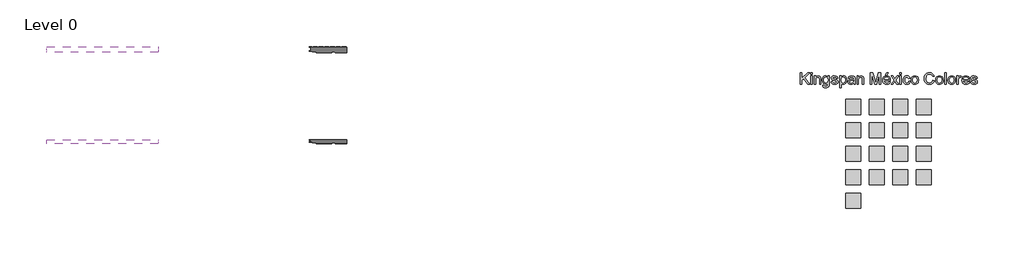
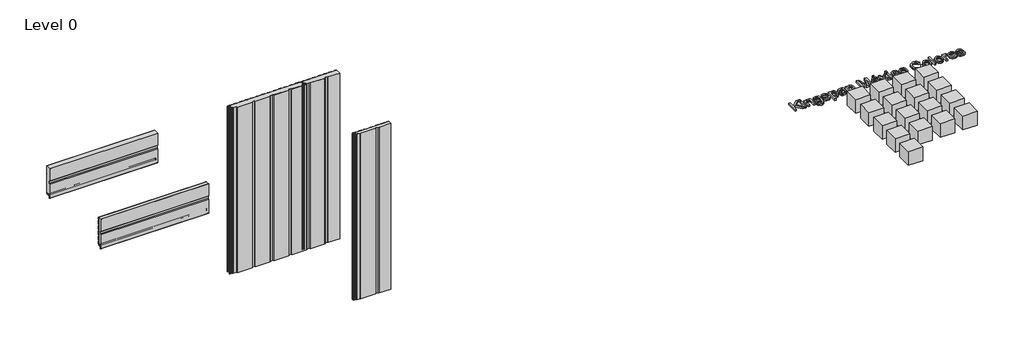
# One storey, incomplete: 18 proxies, 5 plates.
"""IFC4 building model written with IfcOpenShell, lengths in millimetres."""

from ifc_helpers import new_model, si_unit, origin, place, context, project, spatial, transform, mapped, element, save
from components import generic_models_9fd19f98, ks_colour_sample_ks_colour_sample_0243efec, hz_050mm_ca93fbe0, hz_075mm_f9465556, vt_050mm_93b16b37, vt_075mm_114747fd, vt_075mm_04f93a46, vt_075mm_c0fd3bfb

model = new_model("IFC4")

# Units and contexts
model_context = context("Model", 3, world=origin())
ifc_project = project(units=[si_unit("LENGTHUNIT", "METRE", prefix="MILLI")], contexts=[model_context])

# Site, building, storey
site = spatial("IfcSite", under=ifc_project)
building = spatial("IfcBuilding", under=site)
storey = spatial("IfcBuildingStorey", under=building, Name="Level 0", Elevation=0.0)

# Proxies
placement = place(None, origin())
generic_models_shape = generic_models_9fd19f98(model_context)
element("IfcBuildingElementProxy", 1, Name="KIP-MX_ColourRange_Spanish : KIP-MX_ColourRange_Spanish", ObjectType="KIP-MX_ColourRange_Spanish : KIP-MX_ColourRange_Spanish", at=placement, inside=storey, context=model_context, shape_type="MappedRepresentation", body=[
    mapped(generic_models_shape, transform((1966.0629502, 11802.7493823, 0.0), x_axis=(1.0, 0.0, 0.0), y_axis=(0.0, 1.0, 0.0), z_axis=(0.0, 0.0, 1.0))),
])
ks_colour_sample_ks_colour_sample_shape = ks_colour_sample_ks_colour_sample_0243efec(model_context)
element("IfcBuildingElementProxy", 2, Name="KS_Colour Sample : KS_Colour Sample", ObjectType="KS_Colour Sample : KS_Colour Sample", at=placement, inside=storey, context=model_context, shape_type="MappedRepresentation", body=[
    mapped(ks_colour_sample_ks_colour_sample_shape, transform((1501.0629502, 13781.2299273, 0.0), x_axis=(1.0, 0.0, 0.0), y_axis=(0.0, 1.0, 0.0), z_axis=(0.0, 0.0, 1.0))),
])
element("IfcBuildingElementProxy", 3, Name="KS_Colour Sample : KS_Colour Sample", ObjectType="KS_Colour Sample : KS_Colour Sample", at=placement, inside=storey, context=model_context, shape_type="MappedRepresentation", body=[
    mapped(ks_colour_sample_ks_colour_sample_shape, transform((1811.0629502, 13781.2299273, 0.0), x_axis=(1.0, 0.0, 0.0), y_axis=(0.0, 1.0, 0.0), z_axis=(0.0, 0.0, 1.0))),
])
element("IfcBuildingElementProxy", 4, Name="KS_Colour Sample : KS_Colour Sample", ObjectType="KS_Colour Sample : KS_Colour Sample", at=placement, inside=storey, context=model_context, shape_type="MappedRepresentation", body=[
    mapped(ks_colour_sample_ks_colour_sample_shape, transform((2121.0629502, 13781.2299273, 0.0), x_axis=(1.0, 0.0, 0.0), y_axis=(0.0, 1.0, 0.0), z_axis=(0.0, 0.0, 1.0))),
])
element("IfcBuildingElementProxy", 5, Name="KS_Colour Sample : KS_Colour Sample", ObjectType="KS_Colour Sample : KS_Colour Sample", at=placement, inside=storey, context=model_context, shape_type="MappedRepresentation", body=[
    mapped(ks_colour_sample_ks_colour_sample_shape, transform((2431.0629502, 13781.2299273, 0.0), x_axis=(1.0, 0.0, 0.0), y_axis=(0.0, 1.0, 0.0), z_axis=(0.0, 0.0, 1.0))),
])
element("IfcBuildingElementProxy", 6, Name="KS_Colour Sample : KS_Colour Sample", ObjectType="KS_Colour Sample : KS_Colour Sample", at=placement, inside=storey, context=model_context, shape_type="MappedRepresentation", body=[
    mapped(ks_colour_sample_ks_colour_sample_shape, transform((1501.0629502, 13471.2299273, 0.0), x_axis=(1.0, 0.0, 0.0), y_axis=(0.0, 1.0, 0.0), z_axis=(0.0, 0.0, 1.0))),
])
element("IfcBuildingElementProxy", 7, Name="KS_Colour Sample : KS_Colour Sample", ObjectType="KS_Colour Sample : KS_Colour Sample", at=placement, inside=storey, context=model_context, shape_type="MappedRepresentation", body=[
    mapped(ks_colour_sample_ks_colour_sample_shape, transform((1811.0629502, 13471.2299273, 0.0), x_axis=(1.0, 0.0, 0.0), y_axis=(0.0, 1.0, 0.0), z_axis=(0.0, 0.0, 1.0))),
])
element("IfcBuildingElementProxy", 8, Name="KS_Colour Sample : KS_Colour Sample", ObjectType="KS_Colour Sample : KS_Colour Sample", at=placement, inside=storey, context=model_context, shape_type="MappedRepresentation", body=[
    mapped(ks_colour_sample_ks_colour_sample_shape, transform((2121.0629502, 13471.2299273, 0.0), x_axis=(1.0, 0.0, 0.0), y_axis=(0.0, 1.0, 0.0), z_axis=(0.0, 0.0, 1.0))),
])
element("IfcBuildingElementProxy", 9, Name="KS_Colour Sample : KS_Colour Sample", ObjectType="KS_Colour Sample : KS_Colour Sample", at=placement, inside=storey, context=model_context, shape_type="MappedRepresentation", body=[
    mapped(ks_colour_sample_ks_colour_sample_shape, transform((2431.0629502, 13471.2299273, 0.0), x_axis=(1.0, 0.0, 0.0), y_axis=(0.0, 1.0, 0.0), z_axis=(0.0, 0.0, 1.0))),
])
element("IfcBuildingElementProxy", 10, Name="KS_Colour Sample : KS_Colour Sample", ObjectType="KS_Colour Sample : KS_Colour Sample", at=placement, inside=storey, context=model_context, shape_type="MappedRepresentation", body=[
    mapped(ks_colour_sample_ks_colour_sample_shape, transform((1501.0629502, 13161.2299273, 0.0), x_axis=(1.0, 0.0, 0.0), y_axis=(0.0, 1.0, 0.0), z_axis=(0.0, 0.0, 1.0))),
])
element("IfcBuildingElementProxy", 11, Name="KS_Colour Sample : KS_Colour Sample", ObjectType="KS_Colour Sample : KS_Colour Sample", at=placement, inside=storey, context=model_context, shape_type="MappedRepresentation", body=[
    mapped(ks_colour_sample_ks_colour_sample_shape, transform((1811.0629502, 13161.2299273, 0.0), x_axis=(1.0, 0.0, 0.0), y_axis=(0.0, 1.0, 0.0), z_axis=(0.0, 0.0, 1.0))),
])
element("IfcBuildingElementProxy", 12, Name="KS_Colour Sample : KS_Colour Sample", ObjectType="KS_Colour Sample : KS_Colour Sample", at=placement, inside=storey, context=model_context, shape_type="MappedRepresentation", body=[
    mapped(ks_colour_sample_ks_colour_sample_shape, transform((2121.0629502, 13161.2299273, 0.0), x_axis=(1.0, 0.0, 0.0), y_axis=(0.0, 1.0, 0.0), z_axis=(0.0, 0.0, 1.0))),
])
element("IfcBuildingElementProxy", 13, Name="KS_Colour Sample : KS_Colour Sample", ObjectType="KS_Colour Sample : KS_Colour Sample", at=placement, inside=storey, context=model_context, shape_type="MappedRepresentation", body=[
    mapped(ks_colour_sample_ks_colour_sample_shape, transform((2431.0629502, 13161.2299273, 0.0), x_axis=(1.0, 0.0, 0.0), y_axis=(0.0, 1.0, 0.0), z_axis=(0.0, 0.0, 1.0))),
])
element("IfcBuildingElementProxy", 14, Name="KS_Colour Sample : KS_Colour Sample", ObjectType="KS_Colour Sample : KS_Colour Sample", at=placement, inside=storey, context=model_context, shape_type="MappedRepresentation", body=[
    mapped(ks_colour_sample_ks_colour_sample_shape, transform((1501.0629502, 12851.2299273, 0.0), x_axis=(1.0, 0.0, 0.0), y_axis=(0.0, 1.0, 0.0), z_axis=(0.0, 0.0, 1.0))),
])
element("IfcBuildingElementProxy", 15, Name="KS_Colour Sample : KS_Colour Sample", ObjectType="KS_Colour Sample : KS_Colour Sample", at=placement, inside=storey, context=model_context, shape_type="MappedRepresentation", body=[
    mapped(ks_colour_sample_ks_colour_sample_shape, transform((1811.0629502, 12851.2299273, 0.0), x_axis=(1.0, 0.0, 0.0), y_axis=(0.0, 1.0, 0.0), z_axis=(0.0, 0.0, 1.0))),
])
element("IfcBuildingElementProxy", 16, Name="KS_Colour Sample : KS_Colour Sample", ObjectType="KS_Colour Sample : KS_Colour Sample", at=placement, inside=storey, context=model_context, shape_type="MappedRepresentation", body=[
    mapped(ks_colour_sample_ks_colour_sample_shape, transform((2121.0629502, 12851.2299273, 0.0), x_axis=(1.0, 0.0, 0.0), y_axis=(0.0, 1.0, 0.0), z_axis=(0.0, 0.0, 1.0))),
])
element("IfcBuildingElementProxy", 17, Name="KS_Colour Sample : KS_Colour Sample", ObjectType="KS_Colour Sample : KS_Colour Sample", at=placement, inside=storey, context=model_context, shape_type="MappedRepresentation", body=[
    mapped(ks_colour_sample_ks_colour_sample_shape, transform((2431.0629502, 12851.2299273, 0.0), x_axis=(1.0, 0.0, 0.0), y_axis=(0.0, 1.0, 0.0), z_axis=(0.0, 0.0, 1.0))),
])
element("IfcBuildingElementProxy", 18, Name="KS_Colour Sample : KS_Colour Sample", ObjectType="KS_Colour Sample : KS_Colour Sample", at=placement, inside=storey, context=model_context, shape_type="MappedRepresentation", body=[
    mapped(ks_colour_sample_ks_colour_sample_shape, transform((1501.0629502, 12541.2299273, 0.0), x_axis=(1.0, 0.0, 0.0), y_axis=(0.0, 1.0, 0.0), z_axis=(0.0, 0.0, 1.0))),
])

# Plates
hz_050mm_shape = hz_050mm_ca93fbe0(model_context)
element("IfcPlate", 19, ObjectType="KIP-MEX-KW-R19-CP-Hz-KW3_SL : Hz 050mm", at=placement, inside=storey, context=model_context, shape_type="MappedRepresentation", body=[
    mapped(hz_050mm_shape, transform((-8438.7250935, 13346.6881223, 2000.0), x_axis=(1.0, 0.0, 0.0), y_axis=(0.0, 1.0, 0.0), z_axis=(0.0, 0.0, 1.0))),
])
hz_075mm_shape = hz_075mm_f9465556(model_context)
element("IfcPlate", 20, ObjectType="KIP-MEX-KW-R19-CP-Hz-KW3_SL : Hz 075mm", at=placement, inside=storey, context=model_context, shape_type="MappedRepresentation", body=[
    mapped(hz_075mm_shape, transform((-8438.7250935, 14580.6646856, 2000.0), x_axis=(1.0, 0.0, 0.0), y_axis=(0.0, 1.0, 0.0), z_axis=(0.0, 0.0, 1.0))),
])
vt_050mm_shape = vt_050mm_93b16b37(model_context)
element("IfcPlate", 21, ObjectType="KIP-MEX-KW-R19-CP-Vt-KW3_SL : Vt 050mm", at=placement, inside=storey, context=model_context, shape_type="MappedRepresentation", body=[
    mapped(vt_050mm_shape, transform((-5438.9413834, 13346.6881223, 0.0), x_axis=(1.0, 0.0, 0.0), y_axis=(0.0, 1.0, 0.0), z_axis=(0.0, 0.0, 1.0))),
])
vt_075mm_shape = vt_075mm_114747fd(model_context)
vt_075mm_2_shape = vt_075mm_04f93a46(model_context)
element("IfcPlate", 22, ObjectType="KIP-MEX-KW-R19-CP-Vt-KW3_SL : Vt 075mm", at=placement, inside=storey, context=model_context, shape_type="MappedRepresentation", body=[
    mapped(vt_075mm_shape, transform((-6178.9413834, 14575.4926205, 0.0), x_axis=(1.0, 0.0, 0.0), y_axis=(0.0, 1.0, 0.0), z_axis=(0.0, 0.0, 1.0))),
    mapped(vt_075mm_2_shape, transform((-6178.9413834, 14575.4926205, 0.0), x_axis=(1.0, 0.0, 0.0), y_axis=(0.0, 1.0, 0.0), z_axis=(0.0, 0.0, 1.0))),
])
vt_075mm_3_shape = vt_075mm_c0fd3bfb(model_context)
element("IfcPlate", 23, ObjectType="KIP-MEX-KW-R19-CP-Vt-KW3_SL : Vt 075mm", at=placement, inside=storey, context=model_context, shape_type="MappedRepresentation", body=[
    mapped(vt_075mm_3_shape, transform((-5438.9413834, 14575.4926205, 0.0), x_axis=(1.0, 0.0, 0.0), y_axis=(0.0, 1.0, 0.0), z_axis=(0.0, 0.0, 1.0))),
])

save(model, "model.ifc")
